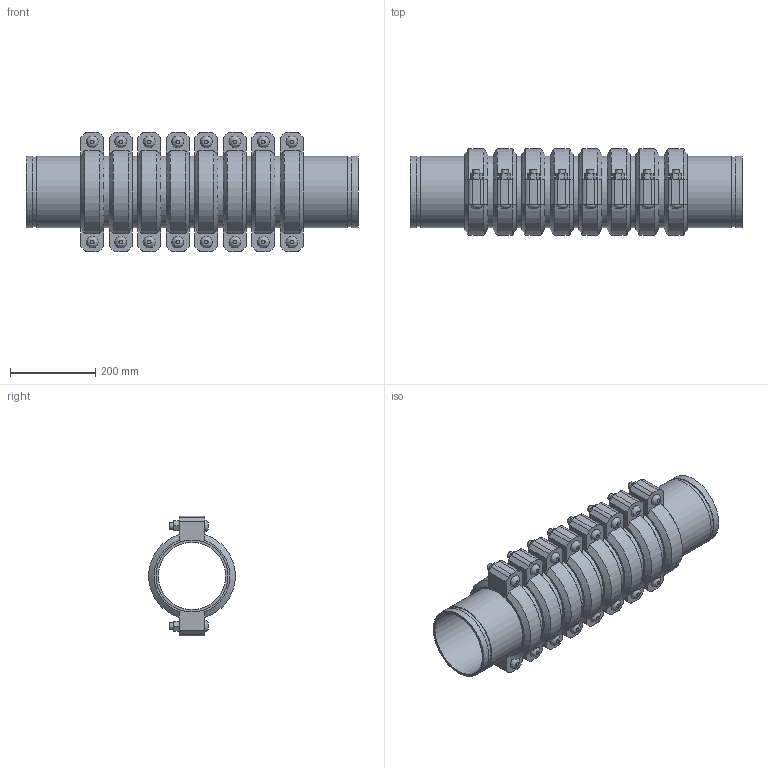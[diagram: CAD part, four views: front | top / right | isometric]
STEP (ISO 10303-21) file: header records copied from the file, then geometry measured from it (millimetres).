
FILE_DESCRIPTION(/* description */ ('VIC EXPANSION JOINT 8 COUPLINGS EXPANDED STYLE 155 (OGS)','CAx-IF Rec.Pracs.---Representation and Presentation of Product Manufacturing Information (PMI)---4.0---2014-10-13'),/* implementation_level */ '2;1');
FILE_NAME(/* name */ 'C:\Users\kkamble\AppData\Roaming\Autodesk\ApplicationPlugins\Victaulic.Temp\A413\Victaulic_IPS_Expansion Joint_Expanded_8 Couplings_Style 155 (OGS)_6 (150).stp',/* time_stamp */ '2021-06-27T00:09:26+02:00',/* author */ ('kkamble'),/* organization */ ('Victaulic'),/* preprocessor_version */ 'ST-DEVELOPER v17.2',/* originating_system */ 'Autodesk Inventor 2019',/* authorisation */ '');
FILE_SCHEMA (('AP242_MANAGED_MODEL_BASED_3D_ENGINEERING_MIM_LF { 1 0 10303 442 1 1 4 }'));
Length unit declared in the file: inch
Products named in the file (4): 155-06.0; Nipple-06.0; Nipple-06.0_1; 075-06.0
Assembly tree (17 placements, depth 2):
  155-06.0
    Nipple-06.0  x2
    Nipple-06.0_1  x7
    075-06.0  x8
Bounding box: 778 x 202.46 x 281.18 mm (x, y, z)
Volume: 7984288 mm3; surface area: 1763356.9 mm2
Topology: 17 solids, 33 shells, 564 faces, 1334 edges, 936 vertices
Faces by surface type: plane 342, cylinder 174, cone 32, bspline 16
Full cylindrical faces by diameter (mm): 15.875 x32, 17.424 x16, 157.15 x9, 161.925 x8, 163.957 x18, 168.275 x43
Entity records: 2849 total; most frequent: CARTESIAN_POINT 501, DIRECTION 477, ORIENTED_EDGE 386, EDGE_CURVE 193, AXIS2_PLACEMENT_3D 192, VERTEX_POINT 138, EDGE_LOOP 107, LINE 93
